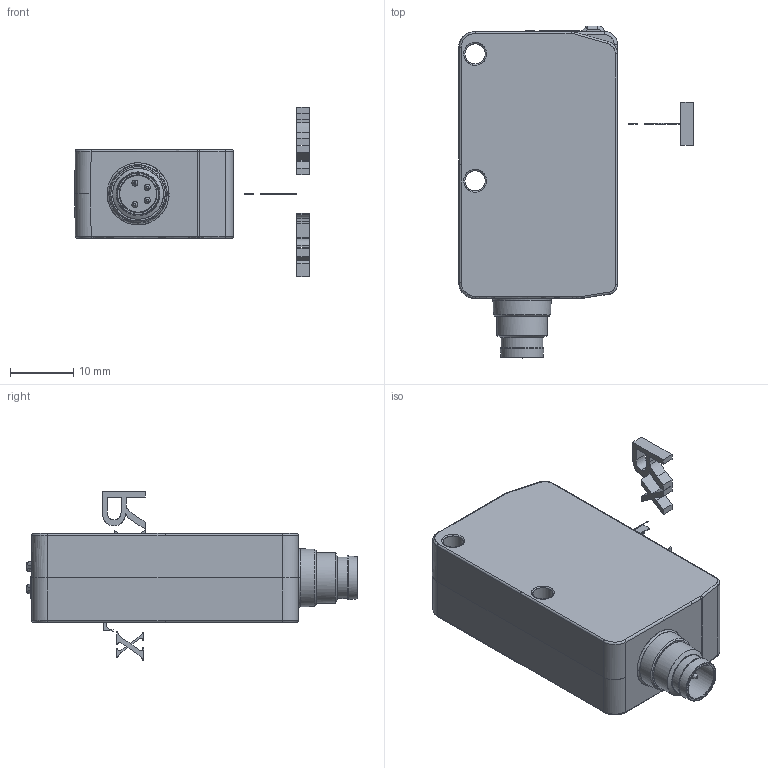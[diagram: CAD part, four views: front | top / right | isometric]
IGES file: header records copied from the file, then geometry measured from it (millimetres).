
Start section: JAMA-IS VERSION  1.0
Global section: file name: D:\CS\IDF\TESTPCB\DSD-0143.igs; native system: NX V12.0; preprocessor: SIEMENS PLM Software NX 12.0; date: 200922.103918; units: millimetre
Bounding box: 37 x 52.3 x 26.68 mm (x, y, z)
Surface area: 5359.7 mm2 (no closed solid volume)
Topology: 0 solids, 0 shells, 525 faces, 3192 edges, 3115 vertices
Faces by surface type: bspline 525
